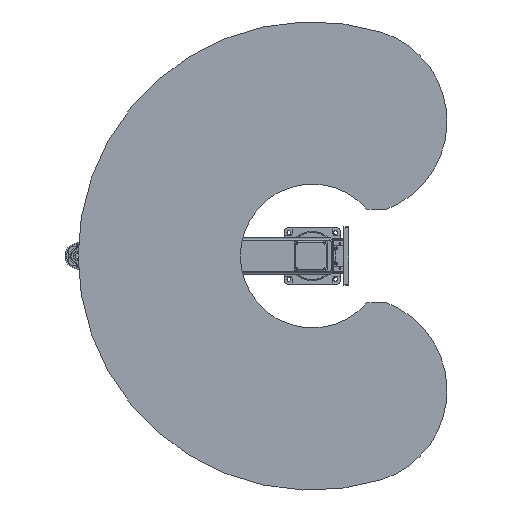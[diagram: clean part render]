
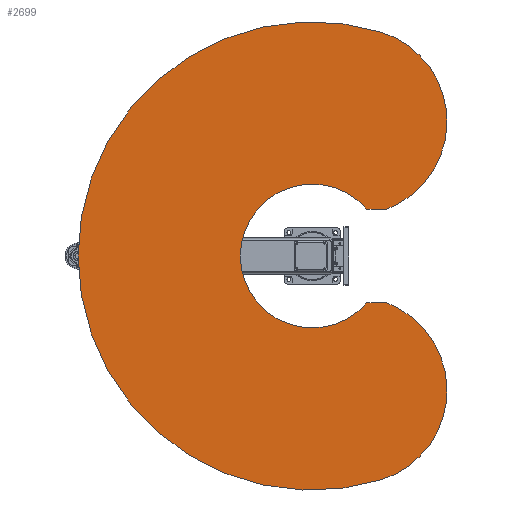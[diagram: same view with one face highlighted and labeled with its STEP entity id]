
A CAD part, front view. The second image highlights one B-rep face of the part: STEP entity #2699.
In plain terms, the highlighted planar face has unit normal (0, -1, 0).
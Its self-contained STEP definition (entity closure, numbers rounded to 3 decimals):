
#2699 = ADVANCED_FACE( '', ( #7826 ), #7827, .F. );
#7826 = FACE_OUTER_BOUND( '', #16472, .T. );
#7827 = PLANE( '', #16473 );
#16472 = EDGE_LOOP( '', ( #26257, #26258, #26259, #26260, #26261, #26262 ) );
#16473 = AXIS2_PLACEMENT_3D( '', #26263, #26264, #26265 );
#26257 = ORIENTED_EDGE( '', *, *, #47236, .F. );
#26258 = ORIENTED_EDGE( '', *, *, #47237, .F. );
#26259 = ORIENTED_EDGE( '', *, *, #47238, .T. );
#26260 = ORIENTED_EDGE( '', *, *, #47239, .F. );
#26261 = ORIENTED_EDGE( '', *, *, #47240, .F. );
#26262 = ORIENTED_EDGE( '', *, *, #47241, .F. );
#26263 = CARTESIAN_POINT( '', ( 573.783, 0., 175.423 ) );
#26264 = DIRECTION( '', ( 0., 1., 0. ) );
#26265 = DIRECTION( '', ( 0., 0., 1. ) );
#47236 = EDGE_CURVE( '', #55340, #55341, #55342, .T. );
#47237 = EDGE_CURVE( '', #55343, #55340, #55344, .T. );
#47238 = EDGE_CURVE( '', #55343, #55345, #55346, .T. );
#47239 = EDGE_CURVE( '', #55347, #55345, #55348, .T. );
#47240 = EDGE_CURVE( '', #55349, #55347, #55350, .T. );
#47241 = EDGE_CURVE( '', #55341, #55349, #55351, .T. );
#55340 = VERTEX_POINT( '', #67353 );
#55341 = VERTEX_POINT( '', #67354 );
#55342 = CIRCLE( '', #67355, 400. );
#55343 = VERTEX_POINT( '', #67356 );
#55344 = LINE( '', #67357, #67358 );
#55345 = VERTEX_POINT( '', #67359 );
#55346 = CIRCLE( '', #67360, 307. );
#55347 = VERTEX_POINT( '', #67361 );
#55348 = LINE( '', #67362, #67363 );
#55349 = VERTEX_POINT( '', #67364 );
#55350 = CIRCLE( '', #67365, 400. );
#55351 = CIRCLE( '', #67366, 1000. );
#67353 = CARTESIAN_POINT( '', ( 200., 0., 317.853 ) );
#67354 = CARTESIAN_POINT( '', ( 956.305, 0., 292.372 ) );
#67355 = AXIS2_PLACEMENT_3D( '', #87024, #87025, #87026 );
#67356 = CARTESIAN_POINT( '', ( 200., 0., 232.914 ) );
#67357 = CARTESIAN_POINT( '', ( 200., 0., 232.914 ) );
#67358 = VECTOR( '', #87027, 1000. );
#67359 = CARTESIAN_POINT( '', ( -200., 0., 232.914 ) );
#67360 = AXIS2_PLACEMENT_3D( '', #87028, #87029, #87030 );
#67361 = CARTESIAN_POINT( '', ( -200., 0., 317.853 ) );
#67362 = CARTESIAN_POINT( '', ( -200., 0., 317.853 ) );
#67363 = VECTOR( '', #87031, 1000. );
#67364 = CARTESIAN_POINT( '', ( -956.305, 0., 292.372 ) );
#67365 = AXIS2_PLACEMENT_3D( '', #87032, #87033, #87034 );
#67366 = AXIS2_PLACEMENT_3D( '', #87035, #87036, #87037 );
#87024 = CARTESIAN_POINT( '', ( 573.783, 0., 175.423 ) );
#87025 = DIRECTION( '', ( 0., 1., 0. ) );
#87026 = DIRECTION( '', ( 1., 0., 0. ) );
#87027 = DIRECTION( '', ( 0., 0., 1. ) );
#87028 = CARTESIAN_POINT( '', ( 0., 0., 0. ) );
#87029 = DIRECTION( '', ( 0., 1., 0. ) );
#87030 = DIRECTION( '', ( 1., 0., 0. ) );
#87031 = DIRECTION( '', ( 0., 0., -1. ) );
#87032 = CARTESIAN_POINT( '', ( -573.783, 0., 175.423 ) );
#87033 = DIRECTION( '', ( 0., 1., 0. ) );
#87034 = DIRECTION( '', ( 1., 0., 0. ) );
#87035 = CARTESIAN_POINT( '', ( 0., 0., 0. ) );
#87036 = DIRECTION( '', ( 0., 1., 0. ) );
#87037 = DIRECTION( '', ( 1., 0., 0. ) );
